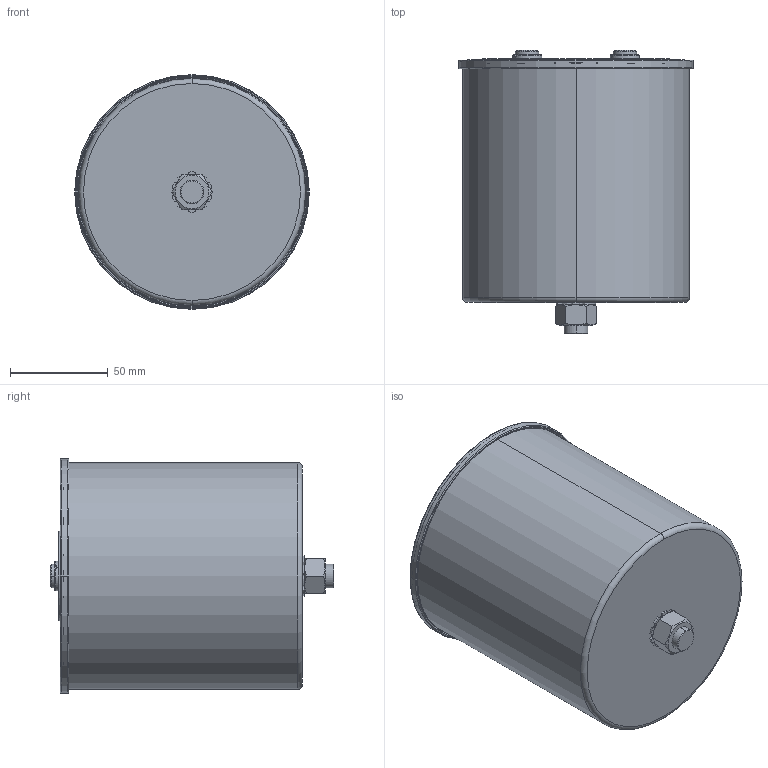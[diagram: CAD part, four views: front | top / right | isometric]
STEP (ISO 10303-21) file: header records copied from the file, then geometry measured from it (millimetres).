
FILE_DESCRIPTION (( 'STEP AP203' ), '1' );
FILE_NAME ('B25680Bx_116x124_129.STEP', '2021-09-13T06:29:17', ( '' ), ( '' ), 'SwSTEP 2.0', 'SolidWorks 2017', '' );
FILE_SCHEMA (( 'CONFIG_CONTROL_DESIGN' ));
Length unit declared in the file: millimetre
Products named in the file (1): B25680Bx_116x124_129
Bounding box: 120 x 145 x 120 mm (x, y, z)
Volume: 115997.2 mm3; surface area: 161255.6 mm2
Topology: 1 solids, 7 shells, 385 faces, 908 edges, 572 vertices
Faces by surface type: plane 153, cylinder 142, torus 42, cone 36, bspline 12
Entity records: 12405 total; most frequent: CARTESIAN_POINT 3162, DIRECTION 2092, ORIENTED_EDGE 1808, EDGE_CURVE 904, AXIS2_PLACEMENT_3D 850, VERTEX_POINT 572, CIRCLE 476, EDGE_LOOP 436
